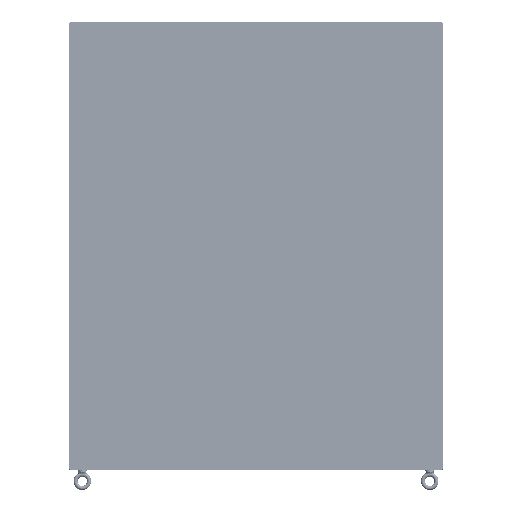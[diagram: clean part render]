
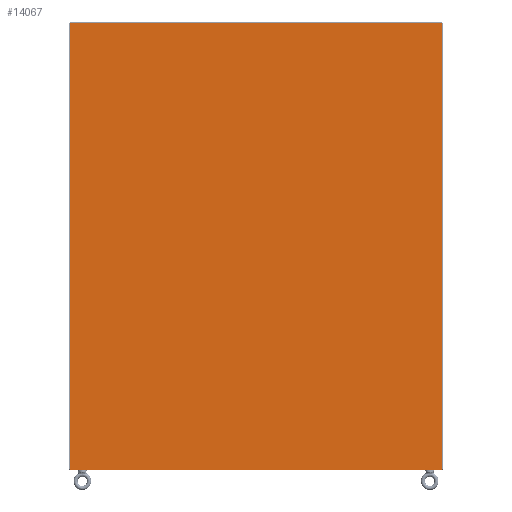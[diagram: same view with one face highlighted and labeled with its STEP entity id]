
A CAD part, left-side view. The second image highlights one B-rep face of the part: STEP entity #14067.
In plain terms, the highlighted planar face has unit normal (-1, 0, 0) as drawn and (0, 0, -1) by its records, which use the part's own axes.
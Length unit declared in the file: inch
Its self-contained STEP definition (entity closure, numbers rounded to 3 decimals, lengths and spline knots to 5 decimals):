
#13824=CARTESIAN_POINT('',(29.8335,35.8335,-0.104));
#13825=DIRECTION('',(0.,0.,-1.));
#13826=DIRECTION('',(0.,1.,0.));
#13827=AXIS2_PLACEMENT_3D('',#13824,#13825,#13826);
#13832=DIRECTION('',(-1.,0.,0.));
#13833=VECTOR('',#13832,59.667);
#13834=CARTESIAN_POINT('',(29.8335,35.896,-0.104));
#13835=LINE('',#13834,#13833);
#13839=CARTESIAN_POINT('',(-29.8335,35.8335,-0.104));
#13840=DIRECTION('',(0.,0.,-1.));
#13841=DIRECTION('',(-1.,0.,0.));
#13842=AXIS2_PLACEMENT_3D('',#13839,#13840,#13841);
#13847=DIRECTION('',(0.,-1.,0.));
#13848=VECTOR('',#13847,71.667);
#13849=CARTESIAN_POINT('',(-29.896,35.8335,-0.104));
#13850=LINE('',#13849,#13848);
#13854=CARTESIAN_POINT('',(-29.8335,-35.8335,-0.104));
#13855=DIRECTION('',(0.,0.,-1.));
#13856=DIRECTION('',(0.,-1.,0.));
#13857=AXIS2_PLACEMENT_3D('',#13854,#13855,#13856);
#13862=DIRECTION('',(1.,0.,0.));
#13863=VECTOR('',#13862,59.667);
#13864=CARTESIAN_POINT('',(-29.8335,-35.896,-0.104));
#13865=LINE('',#13864,#13863);
#13869=CARTESIAN_POINT('',(29.8335,-35.8335,-0.104));
#13870=DIRECTION('',(0.,0.,-1.));
#13871=DIRECTION('',(1.,0.,0.));
#13872=AXIS2_PLACEMENT_3D('',#13869,#13870,#13871);
#13877=DIRECTION('',(0.,1.,0.));
#13878=VECTOR('',#13877,71.667);
#13879=CARTESIAN_POINT('',(29.896,-35.8335,-0.104));
#13880=LINE('',#13879,#13878);
#13888=CARTESIAN_POINT('',(29.8335,35.896,-0.104));
#13889=VERTEX_POINT('',#13888);
#13890=CARTESIAN_POINT('',(29.896,35.8335,-0.104));
#13891=VERTEX_POINT('',#13890);
#13896=CARTESIAN_POINT('',(-29.896,35.8335,-0.104));
#13897=VERTEX_POINT('',#13896);
#13898=CARTESIAN_POINT('',(-29.8335,35.896,-0.104));
#13899=VERTEX_POINT('',#13898);
#13904=CARTESIAN_POINT('',(-29.8335,-35.896,-0.104));
#13905=VERTEX_POINT('',#13904);
#13906=CARTESIAN_POINT('',(-29.896,-35.8335,-0.104));
#13907=VERTEX_POINT('',#13906);
#13912=CARTESIAN_POINT('',(29.896,-35.8335,-0.104));
#13913=VERTEX_POINT('',#13912);
#13914=CARTESIAN_POINT('',(29.8335,-35.896,-0.104));
#13915=VERTEX_POINT('',#13914);
#14052=CARTESIAN_POINT('',(0.,0.,-0.104));
#14053=DIRECTION('',(0.,0.,1.));
#14054=DIRECTION('',(1.,0.,0.));
#14055=AXIS2_PLACEMENT_3D('',#14052,#14053,#14054);
#14056=PLANE('',#14055);
#14057=ORIENTED_EDGE('',*,*,#13948,.F.);
#14058=ORIENTED_EDGE('',*,*,#13964,.T.);
#14059=ORIENTED_EDGE('',*,*,#13977,.F.);
#14060=ORIENTED_EDGE('',*,*,#13992,.T.);
#14061=ORIENTED_EDGE('',*,*,#14005,.F.);
#14062=ORIENTED_EDGE('',*,*,#14020,.T.);
#14063=ORIENTED_EDGE('',*,*,#14033,.F.);
#14064=ORIENTED_EDGE('',*,*,#14045,.T.);
#14065=EDGE_LOOP('',(#14057,#14058,#14059,#14060,#14061,#14062,#14063,#14064));
#14066=FACE_OUTER_BOUND('',#14065,.F.);
#13828=CIRCLE('',#13827,0.0625);
#13843=CIRCLE('',#13842,0.0625);
#13858=CIRCLE('',#13857,0.0625);
#13873=CIRCLE('',#13872,0.0625);
#13948=EDGE_CURVE('',#13889,#13891,#13828,.T.);
#13964=EDGE_CURVE('',#13889,#13899,#13835,.T.);
#13977=EDGE_CURVE('',#13897,#13899,#13843,.T.);
#13992=EDGE_CURVE('',#13897,#13907,#13850,.T.);
#14005=EDGE_CURVE('',#13905,#13907,#13858,.T.);
#14020=EDGE_CURVE('',#13905,#13915,#13865,.T.);
#14033=EDGE_CURVE('',#13913,#13915,#13873,.T.);
#14045=EDGE_CURVE('',#13913,#13891,#13880,.T.);
#14067=ADVANCED_FACE('',(#14066),#14056,.F.);
